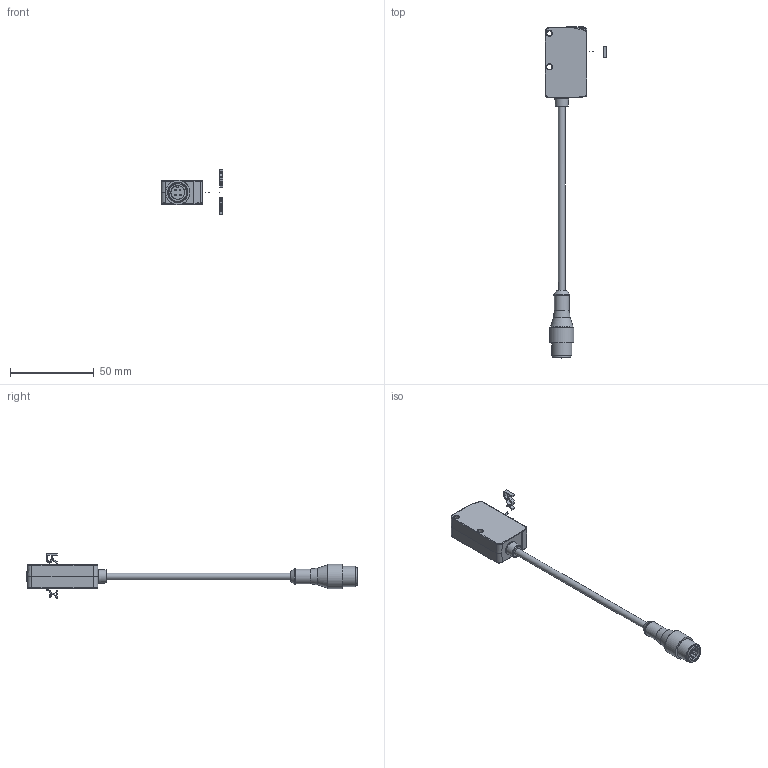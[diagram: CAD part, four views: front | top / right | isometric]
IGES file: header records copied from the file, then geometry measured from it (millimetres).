
Start section: JAMA-IS VERSION  1.0
Global section: file name: D:\CS\IDF\TESTPCB\DSD-0194.igs; native system: NX V12.0; preprocessor: SIEMENS PLM Software NX 12.0; date: 200922.115141; units: millimetre
Bounding box: 37 x 198.3 x 26.68 mm (x, y, z)
Surface area: 8997.7 mm2 (no closed solid volume)
Topology: 0 solids, 0 shells, 522 faces, 3122 edges, 3041 vertices
Faces by surface type: bspline 522
